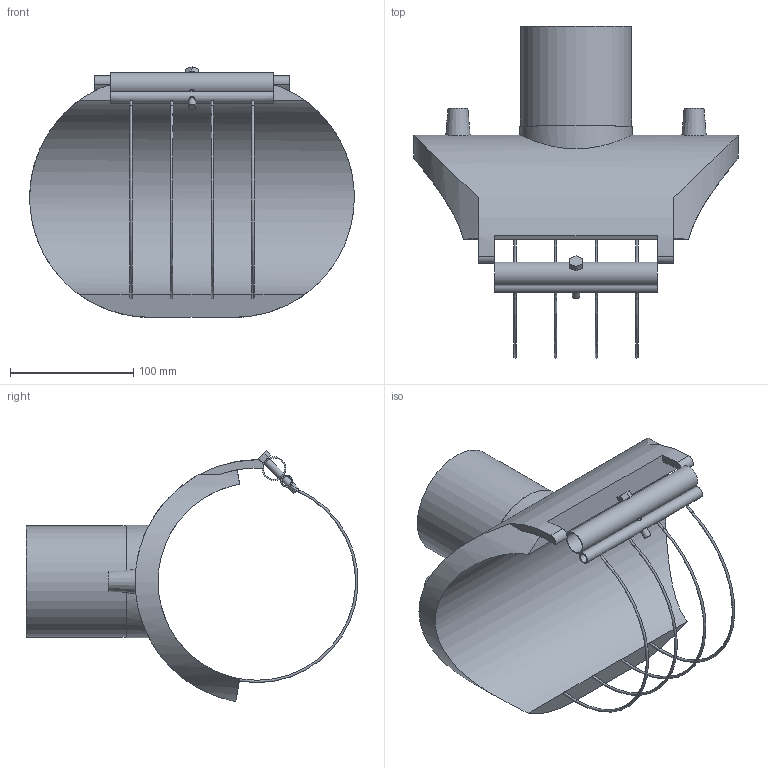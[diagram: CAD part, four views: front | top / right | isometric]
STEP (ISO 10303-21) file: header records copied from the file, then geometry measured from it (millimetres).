
FILE_DESCRIPTION(/* description */ ('Plasson Branch Saddle 160x90'),/* implementation_level */ '2;1');
FILE_NAME(/* name */ 'C:\Dropbox\KIMPROJECTS-Inventor 2019\99-16-3568-Processing\ElectroFusion Fittings\4958X4\4958X4160090T.stp',/* time_stamp */ '2025-05-07T12:15:11+03:00',/* author */ ('KIM'),/* organization */ (''),/* preprocessor_version */ 'ST-DEVELOPER v18.1',/* originating_system */ 'Autodesk Inventor 2021',/* authorisation */ '');
FILE_SCHEMA (('AUTOMOTIVE_DESIGN { 1 0 10303 214 3 1 1 }'));
Length unit declared in the file: millimetre
Products named in the file (1): 4958X4160090T
Bounding box: 263 x 268.91 x 203.14 mm (x, y, z)
Volume: 1254449.7 mm3; surface area: 211917.7 mm2
Topology: 1 solids, 1 shells, 63 faces, 178 edges, 115 vertices
Faces by surface type: cylinder 28, plane 25, torus 8, cone 2
Full cylindrical faces by diameter (mm): 6 x3, 7.6 x1, 8 x1, 16 x1, 17.2 x1, 73 x1, 90 x1, 91 x1
Entity records: 2937 total; most frequent: CARTESIAN_POINT 1242, ORIENTED_EDGE 360, DIRECTION 331, EDGE_CURVE 180, AXIS2_PLACEMENT_3D 135, VERTEX_POINT 115, EDGE_LOOP 81, CIRCLE 67
